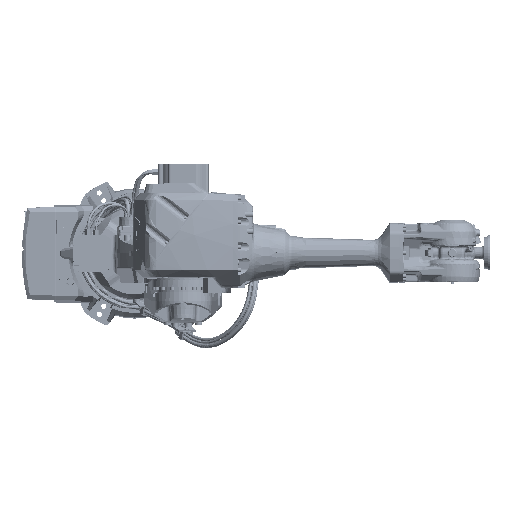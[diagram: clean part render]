
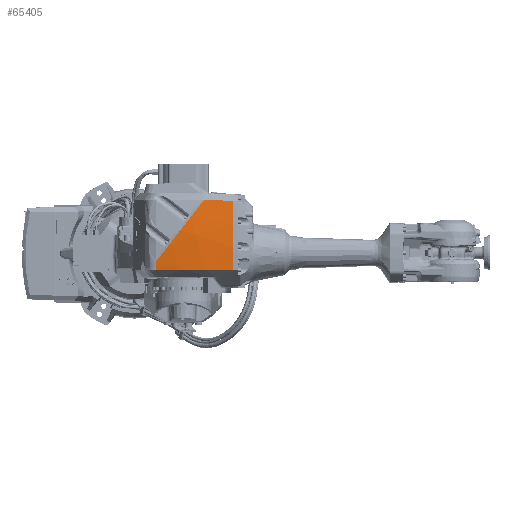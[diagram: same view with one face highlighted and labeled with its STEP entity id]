
A CAD part, top view. The second image highlights one B-rep face of the part: STEP entity #65405.
In plain terms, the highlighted free-form (B-spline) face has degree [2, 2] with [3, 3] control points.
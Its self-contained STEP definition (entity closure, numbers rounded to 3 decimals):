
#678=(
BOUNDED_SURFACE()
B_SPLINE_SURFACE(2,2,((#159921,#159922,#159923),(#159924,#159925,#159926),
(#159927,#159928,#159929)),.UNSPECIFIED.,.F.,.F.,.F.)
B_SPLINE_SURFACE_WITH_KNOTS((3,3),(3,3),(-0.064,0.118),
(1.413,1.623),.UNSPECIFIED.)
GEOMETRIC_REPRESENTATION_ITEM()
RATIONAL_B_SPLINE_SURFACE(((1.,0.994,1.),(0.996,
0.99,0.996),(1.,0.994,1.)))
REPRESENTATION_ITEM('')
SURFACE()
);
#10045=B_SPLINE_CURVE_WITH_KNOTS('',3,(#159932,#159933,#159934,#159935),
 .UNSPECIFIED.,.F.,.F.,(4,4),(0.013,0.346),
 .UNSPECIFIED.);
#11164=ELLIPSE('',#71760,1260.608,1224.897);
#17947=FACE_OUTER_BOUND('',#22748,.T.);
#22748=EDGE_LOOP('',(#57305,#57306,#57307,#57308,#57309,#57310));
#26092=CIRCLE('',#71757,74.395);
#26093=CIRCLE('',#71758,1188.691);
#26110=CIRCLE('',#71826,1497.995);
#26111=CIRCLE('',#71827,1189.639);
#31815=VERTEX_POINT('',#159390);
#31816=VERTEX_POINT('',#159398);
#31817=VERTEX_POINT('',#159416);
#31818=VERTEX_POINT('',#159425);
#31880=VERTEX_POINT('',#159915);
#31881=VERTEX_POINT('',#159930);
#40485=EDGE_CURVE('',#31815,#31816,#26092,.T.);
#40486=EDGE_CURVE('',#31817,#31815,#26093,.T.);
#40488=EDGE_CURVE('',#31817,#31818,#11164,.T.);
#40590=EDGE_CURVE('',#31880,#31816,#26110,.T.);
#40591=EDGE_CURVE('',#31881,#31880,#26111,.T.);
#40592=EDGE_CURVE('',#31881,#31818,#10045,.T.);
#57305=ORIENTED_EDGE('',*,*,#40488,.F.);
#57306=ORIENTED_EDGE('',*,*,#40486,.T.);
#57307=ORIENTED_EDGE('',*,*,#40485,.T.);
#57308=ORIENTED_EDGE('',*,*,#40590,.F.);
#57309=ORIENTED_EDGE('',*,*,#40591,.F.);
#57310=ORIENTED_EDGE('',*,*,#40592,.T.);
#65405=ADVANCED_FACE('',(#17947),#678,.F.);
#71757=AXIS2_PLACEMENT_3D('',#159403,#87011,#87012);
#71758=AXIS2_PLACEMENT_3D('',#159417,#87013,#87014);
#71760=AXIS2_PLACEMENT_3D('',#159426,#87017,#87018);
#71826=AXIS2_PLACEMENT_3D('',#159920,#87188,#87189);
#71827=AXIS2_PLACEMENT_3D('',#159931,#87190,#87191);
#87011=DIRECTION('center_axis',(-0.064,-0.002,
0.998));
#87012=DIRECTION('ref_axis',(0.,-1.,-0.002));
#87013=DIRECTION('center_axis',(0.998,0.,-0.069));
#87014=DIRECTION('ref_axis',(0.069,-0.052,0.996));
#87017=DIRECTION('center_axis',(-0.788,0.616,0.));
#87018=DIRECTION('ref_axis',(0.615,0.788,0.024));
#87188=DIRECTION('center_axis',(0.,-1.,
0.));
#87189=DIRECTION('ref_axis',(-0.064,0.,0.998));
#87190=DIRECTION('center_axis',(1.,0.,0.));
#87191=DIRECTION('ref_axis',(0.,1.,0.));
#159390=CARTESIAN_POINT('',(78.731,-61.685,1722.317));
#159398=CARTESIAN_POINT('',(79.515,-61.689,1722.367));
#159403=CARTESIAN_POINT('Origin',(79.506,12.707,1722.501));
#159416=CARTESIAN_POINT('',(78.816,-28.902,1723.564));
#159417=CARTESIAN_POINT('Origin',(-3.26,-0.005,
538.062));
#159425=CARTESIAN_POINT('',(248.86,188.744,1710.22));
#159426=CARTESIAN_POINT('Origin',(124.46,29.519,500.867));
#159915=CARTESIAN_POINT('',(351.,-61.69,1715.038));
#159920=CARTESIAN_POINT('Origin',(175.,-62.039,227.418));
#159921=CARTESIAN_POINT('Ctrl Pts',(78.731,188.543,1708.964));
#159922=CARTESIAN_POINT('Ctrl Pts',(78.731,63.941,1728.84));
#159923=CARTESIAN_POINT('Ctrl Pts',(78.731,-62.067,
1722.297));
#159924=CARTESIAN_POINT('Ctrl Pts',(215.197,189.926,1717.631));
#159925=CARTESIAN_POINT('Ctrl Pts',(215.197,64.41,1737.653));
#159926=CARTESIAN_POINT('Ctrl Pts',(215.197,-62.522,
1731.062));
#159927=CARTESIAN_POINT('Ctrl Pts',(351.,187.398,1701.786));
#159928=CARTESIAN_POINT('Ctrl Pts',(351.,63.552,1721.542));
#159929=CARTESIAN_POINT('Ctrl Pts',(351.,-61.69,1715.038));
#159930=CARTESIAN_POINT('',(351.,185.805,1702.04));
#159931=CARTESIAN_POINT('Origin',(351.,0.,
527.));
#159932=CARTESIAN_POINT('Ctrl Pts',(351.,185.805,1702.04));
#159933=CARTESIAN_POINT('Ctrl Pts',(317.233,187.178,1705.862));
#159934=CARTESIAN_POINT('Ctrl Pts',(283.161,188.161,1708.599));
#159935=CARTESIAN_POINT('Ctrl Pts',(248.86,188.744,1710.22));
